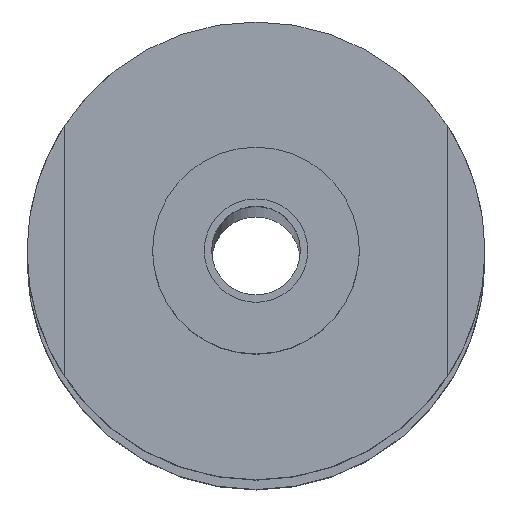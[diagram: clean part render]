
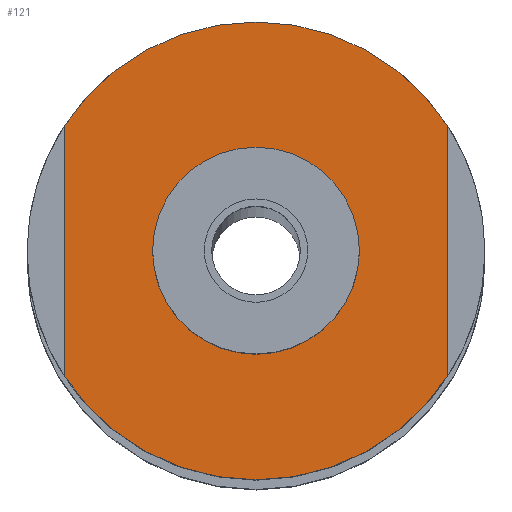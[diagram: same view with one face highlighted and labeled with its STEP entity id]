
A CAD part, top view. The second image highlights one B-rep face of the part: STEP entity #121.
In plain terms, the highlighted planar face has unit normal (0, 0, 1).
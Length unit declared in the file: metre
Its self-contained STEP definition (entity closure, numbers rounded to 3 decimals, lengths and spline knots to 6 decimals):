
#121=ADVANCED_FACE('37:1511',(#238,#239),#240,.T.);
#238=FACE_OUTER_BOUND('',#364,.T.);
#239=FACE_BOUND('',#365,.T.);
#240=PLANE('',#366);
#364=EDGE_LOOP('',(#596,#597,#598,#599,#600,#601));
#365=EDGE_LOOP('',(#602,#603));
#366=AXIS2_PLACEMENT_3D('',#604,#605,#606);
#596=ORIENTED_EDGE('',*,*,#761,.F.);
#597=ORIENTED_EDGE('',*,*,#760,.F.);
#598=ORIENTED_EDGE('',*,*,#756,.F.);
#599=ORIENTED_EDGE('',*,*,#688,.F.);
#600=ORIENTED_EDGE('',*,*,#687,.F.);
#601=ORIENTED_EDGE('',*,*,#751,.T.);
#602=ORIENTED_EDGE('',*,*,#749,.F.);
#603=ORIENTED_EDGE('',*,*,#693,.F.);
#604=CARTESIAN_POINT('',(0.0,0.0,2.755));
#605=DIRECTION('',(0.0,0.0,1.0));
#606=DIRECTION('',(1.0,0.0,0.0));
#687=EDGE_CURVE('37:1561',#812,#814,#815,.F.);
#688=EDGE_CURVE('37:1552',#814,#816,#817,.F.);
#693=EDGE_CURVE('',#822,#825,#826,.T.);
#749=EDGE_CURVE('37:1539',#825,#822,#907,.T.);
#751=EDGE_CURVE('37:3142',#812,#909,#910,.T.);
#756=EDGE_CURVE('37:2641',#816,#917,#918,.F.);
#760=EDGE_CURVE('37:1558',#917,#922,#923,.F.);
#761=EDGE_CURVE('37:1549',#922,#909,#924,.F.);
#812=VERTEX_POINT('',#1001);
#814=VERTEX_POINT('',#1004);
#815=CIRCLE('',#1005,0.0155);
#816=VERTEX_POINT('',#1006);
#817=CIRCLE('',#1007,0.0155);
#822=VERTEX_POINT('',#1013);
#825=VERTEX_POINT('',#1017);
#826=CIRCLE('',#1018,0.007);
#907=CIRCLE('',#1116,0.007);
#909=VERTEX_POINT('',#1118);
#910=LINE('',#1119,#1120);
#917=VERTEX_POINT('',#1130);
#918=LINE('',#1131,#1132);
#922=VERTEX_POINT('',#1137);
#923=CIRCLE('',#1138,0.0155);
#924=CIRCLE('',#1139,0.0155);
#1001=CARTESIAN_POINT('',(-0.013092,0.008536,2.755));
#1004=CARTESIAN_POINT('',(-0.000092,0.015595,2.755));
#1005=AXIS2_PLACEMENT_3D('',#1221,#1222,#1223);
#1006=CARTESIAN_POINT('',(0.012908,0.008536,2.755));
#1007=AXIS2_PLACEMENT_3D('',#1224,#1225,#1226);
#1013=CARTESIAN_POINT('',(0.006908,0.000095,2.755));
#1017=CARTESIAN_POINT('',(-0.007092,0.000095,2.755));
#1018=AXIS2_PLACEMENT_3D('',#1232,#1233,#1234);
#1116=AXIS2_PLACEMENT_3D('',#1318,#1319,#1320);
#1118=CARTESIAN_POINT('',(-0.013092,-0.008346,2.755));
#1119=CARTESIAN_POINT('',(-0.013092,0.000048,2.755));
#1120=VECTOR('',#1321,1.0);
#1130=CARTESIAN_POINT('',(0.012908,-0.008346,2.755));
#1131=CARTESIAN_POINT('',(0.012908,0.000048,2.755));
#1132=VECTOR('',#1325,1.0);
#1137=CARTESIAN_POINT('',(-0.000092,-0.015405,2.755));
#1138=AXIS2_PLACEMENT_3D('',#1330,#1331,#1332);
#1139=AXIS2_PLACEMENT_3D('',#1333,#1334,#1335);
#1221=CARTESIAN_POINT('',(-0.000092,0.000095,2.755));
#1222=DIRECTION('',(0.0,0.0,1.0));
#1223=DIRECTION('',(1.0,0.0,0.0));
#1224=CARTESIAN_POINT('',(-0.000092,0.000095,2.755));
#1225=DIRECTION('',(0.0,0.0,1.0));
#1226=DIRECTION('',(1.0,0.0,0.0));
#1232=CARTESIAN_POINT('',(-0.000092,0.000095,2.755));
#1233=DIRECTION('',(0.0,0.0,1.0));
#1234=DIRECTION('',(1.0,0.0,-0.0));
#1318=CARTESIAN_POINT('',(-0.000092,0.000095,2.755));
#1319=DIRECTION('',(0.0,0.0,1.0));
#1320=DIRECTION('',(1.0,0.0,-0.0));
#1321=DIRECTION('',(0.,-1.0,0.0));
#1325=DIRECTION('',(0.,1.0,0.0));
#1330=CARTESIAN_POINT('',(-0.000092,0.000095,2.755));
#1331=DIRECTION('',(0.0,0.0,1.0));
#1332=DIRECTION('',(1.0,0.0,0.0));
#1333=CARTESIAN_POINT('',(-0.000092,0.000095,2.755));
#1334=DIRECTION('',(0.0,0.0,1.0));
#1335=DIRECTION('',(1.0,0.0,0.0));
